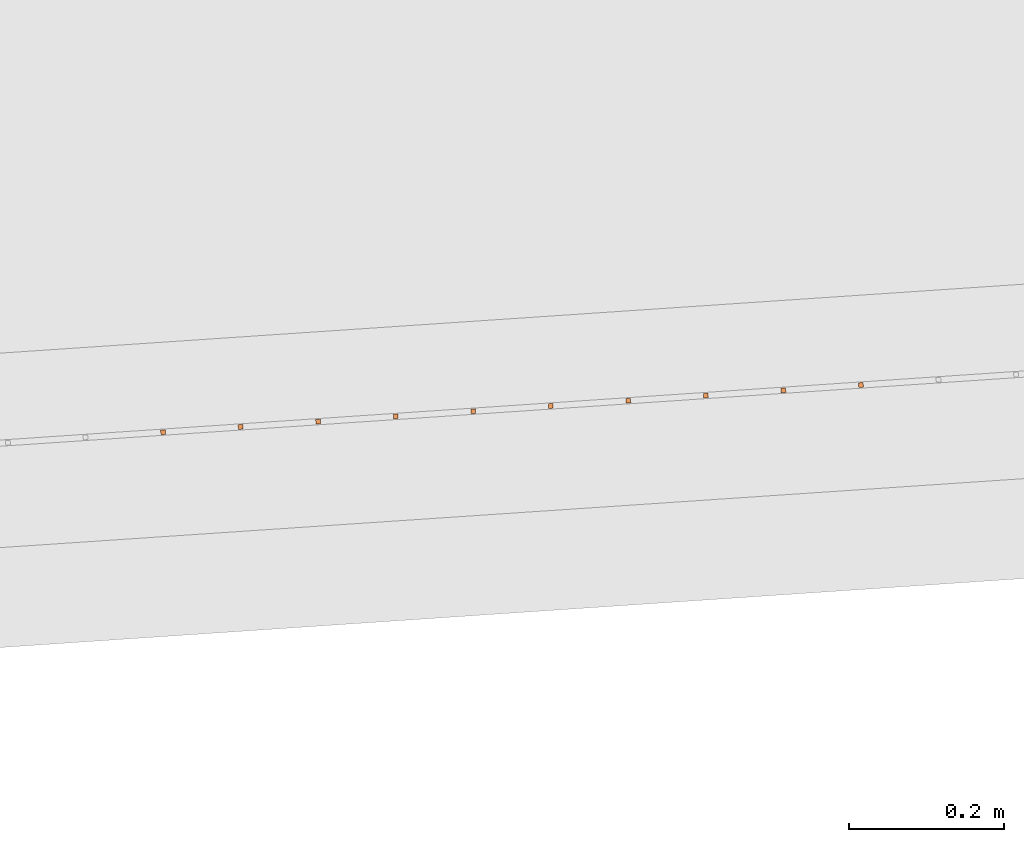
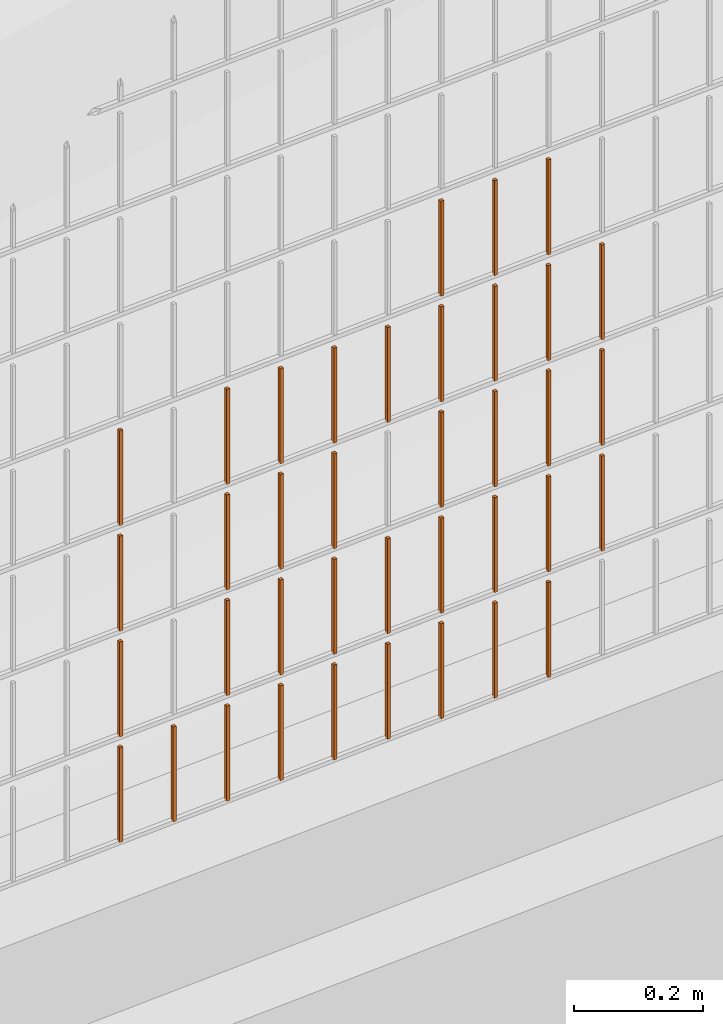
# One storey, part 100 of 1809: 38 proxies, 1 element without a shape of its own.
"""IFC2X3 building model written with IfcOpenShell, lengths in millimetres."""

import ifcopenshell
import ifcopenshell.guid

model = None  # the IFC model being written
_history = None  # IfcOwnerHistory: only IFC2X3 demands one
_inside = {}  # id of a spatial element -> (the spatial element, [elements in it])
_under = {}  # id of a project, library or spatial element -> (it, [spatial elements below it])
_declared = {}  # id of a project -> (the project, [libraries it declares])
_typed = {}  # id of a type object -> (the type object, [elements of that type])
_made_of = {}  # id of a material, layer set ... -> (it, [elements and type objects made of it])


def new_model(schema):
    """Start an empty IFC model of exactly this schema.

    Asked for "IFC4X3", IfcOpenShell would pick the latest addendum, in which some entities
    have other attributes; the version numbers below select the first issue.
    IFC2X3 requires an IfcOwnerHistory on every rooted entity: one is made here for all.
    """
    global model, _history
    if schema == "IFC4X3":
        model = ifcopenshell.file(schema_version=(4, 3, 0, 0))
    else:
        model = ifcopenshell.file(schema=schema)
    _inside.clear()
    _under.clear()
    _declared.clear()
    _typed.clear()
    _made_of.clear()
    _history = None
    if model.schema == "IFC2X3":
        org = make("IfcOrganization", Name="unknown")
        user = make(
            "IfcPersonAndOrganization",
            ThePerson=make("IfcPerson", FamilyName="unknown"),
            TheOrganization=org,
        )
        app = make(
            "IfcApplication",
            ApplicationDeveloper=org,
            Version="unknown",
            ApplicationFullName="unknown",
            ApplicationIdentifier="unknown",
        )
        _history = make(
            "IfcOwnerHistory",
            OwningUser=user,
            OwningApplication=app,
            ChangeAction="ADDED",
            CreationDate=0,
        )
    return model


def make(cls, **values):
    """One entity of the class cls with the attributes given. An attribute that is None is left unset."""
    return model.create_entity(
        cls, **{name: value for name, value in values.items() if value is not None}
    )


def entity(cls, *values):
    """Any entity or typed value of the class cls, its attributes in the order of the schema. None: left unset."""
    e = model.create_entity(cls)
    for i, value in enumerate(values):
        if value is not None:
            e[i] = value
    return e


def rooted(cls, **values):
    """An entity with a GlobalId (a new one), such as an element, a storey or a relation."""
    return make(cls, GlobalId=ifcopenshell.guid.new(), OwnerHistory=_history, **values)


def si_unit(unit_type, name, prefix=None):
    """IfcSIUnit, for example si_unit("LENGTHUNIT", "METRE", prefix="MILLI")."""
    return make("IfcSIUnit", UnitType=unit_type, Prefix=prefix, Name=name)


def converted_unit(unit_type, name, factor, base, dimensions=None, offset=None):
    """IfcConversionBasedUnit, such as the inch: factor (a typed value) times the base unit."""
    return make(
        "IfcConversionBasedUnit"
        if offset is None
        else "IfcConversionBasedUnitWithOffset",
        ConversionOffset=offset,
        Dimensions=None
        if dimensions is None
        else entity("IfcDimensionalExponents", *dimensions),
        UnitType=unit_type,
        Name=name,
        ConversionFactor=make(
            "IfcMeasureWithUnit", ValueComponent=factor, UnitComponent=base
        ),
    )


def derived_unit(unit_type, elements):
    """IfcDerivedUnit: a product of units, each with its exponent."""
    return make(
        "IfcDerivedUnit",
        Elements=[
            make("IfcDerivedUnitElement", Unit=unit, Exponent=power)
            for unit, power in elements
        ],
        UnitType=unit_type,
    )


def money_unit(currency):
    """IfcMonetaryUnit."""
    return make("IfcMonetaryUnit", Currency=currency)


def assignment(units):
    """IfcUnitAssignment: the units of a project."""
    return None if units is None else make("IfcUnitAssignment", Units=units)


def point(xyz):
    """IfcCartesianPoint."""
    return None if xyz is None else make("IfcCartesianPoint", Coordinates=xyz)


def direction(xyz):
    """IfcDirection."""
    return None if xyz is None else make("IfcDirection", DirectionRatios=xyz)


def frame(location, z_axis=None, x_axis=None):
    """IfcAxis2Placement3D, a coordinate frame: its origin and axes. An axis left out is left unset."""
    return make(
        "IfcAxis2Placement3D",
        Location=point(location),
        Axis=direction(z_axis),
        RefDirection=direction(x_axis),
    )


def origin_with_axes():
    """The frame at (0, 0, 0) with the z axis (0, 0, 1) and the x axis (1, 0, 0) written out."""
    return frame((0.0, 0.0, 0.0), z_axis=(0.0, 0.0, 1.0), x_axis=(1.0, 0.0, 0.0))


def place(relative_to, where):
    """IfcLocalPlacement: puts the frame where relative to a parent placement (None: the world)."""
    return make(
        "IfcLocalPlacement", PlacementRelTo=relative_to, RelativePlacement=where
    )


def context(
    kind, dimensions, precision=None, world=None, true_north=None, identifier=None
):
    """IfcGeometricRepresentationContext, for example the 3D "Model" context."""
    return make(
        "IfcGeometricRepresentationContext",
        ContextIdentifier=identifier,
        ContextType=kind,
        CoordinateSpaceDimension=dimensions,
        Precision=precision,
        WorldCoordinateSystem=world,
        TrueNorth=true_north,
    )


def subcontext(parent, identifier, kind, view, scale=None):
    """IfcGeometricRepresentationSubContext, for example "Body" below "Model"."""
    return make(
        "IfcGeometricRepresentationSubContext",
        ContextIdentifier=identifier,
        ContextType=kind,
        ParentContext=parent,
        TargetScale=scale,
        TargetView=view,
    )


def project(units=None, contexts=None):
    """IfcProject with its units and contexts."""
    return rooted(
        "IfcProject",
        Name="project",
        RepresentationContexts=contexts,
        UnitsInContext=assignment(units),
    )


def spatial(cls, under=None, at=None, **own):
    """A site, building, storey or space (cls), placed at a placement, below another one or the project."""
    s = rooted(cls, ObjectPlacement=at, **own)
    if under is not None:
        _under.setdefault(under.id(), (under, []))[1].append(s)
    return s


def faces_of(points, faces, orient=None, outer=None):
    """IfcFace entities. A face is a list of loops; a loop is a list of indices into points, from 0.

    orient and outer hold one flag for each loop. By default every Orientation is true, the
    first loop of a face is its IfcFaceOuterBound and the others are IfcFaceBound.
    """
    made = []
    for i, loops in enumerate(faces):
        bounds = []
        for j, loop in enumerate(loops):
            is_outer = j == 0 if outer is None else outer[i][j]
            bounds.append(
                make(
                    "IfcFaceOuterBound" if is_outer else "IfcFaceBound",
                    Bound=make("IfcPolyLoop", Polygon=[points[k] for k in loop]),
                    Orientation=True if orient is None else orient[i][j],
                )
            )
        made.append(make("IfcFace", Bounds=bounds))
    return made


def faceted_brep(points, faces, orient=None, outer=None, voids=None):
    """IfcFacetedBrep: a solid bounded by flat faces; with voids (closed shells), ...WithVoids."""
    shared = [point(p) for p in points]
    hull = make("IfcClosedShell", CfsFaces=faces_of(shared, faces, orient, outer))
    if voids is None:
        return make("IfcFacetedBrep", Outer=hull)
    return make(
        "IfcFacetedBrepWithVoids",
        Outer=hull,
        Voids=[
            make(cls, CfsFaces=faces_of(shared, fs, o, b)) for cls, fs, o, b in voids
        ],
    )


def shape(context_of_items, identifier, shape_type, items):
    """IfcShapeRepresentation: the items that make up one representation, for example the "Body"."""
    return make(
        "IfcShapeRepresentation",
        ContextOfItems=context_of_items,
        RepresentationIdentifier=identifier,
        RepresentationType=shape_type,
        Items=items,
    )


def source(mapping_origin, context_of_items, identifier, shape_type, items):
    """IfcRepresentationMap: a shape defined once, which mapped items show again and again."""
    return make(
        "IfcRepresentationMap",
        MappingOrigin=mapping_origin,
        MappedRepresentation=shape(context_of_items, identifier, shape_type, items),
    )


def transform(
    local_origin,
    x_axis=None,
    y_axis=None,
    z_axis=None,
    scale=None,
    scale2=None,
    scale3=None,
    uniform=True,
):
    """IfcCartesianTransformationOperator3D, or its non-uniform kind. x_axis, y_axis, z_axis: its Axis1, 2, 3."""
    if uniform:
        return make(
            "IfcCartesianTransformationOperator3D",
            Axis1=direction(x_axis),
            Axis2=direction(y_axis),
            LocalOrigin=point(local_origin),
            Scale=scale,
            Axis3=direction(z_axis),
        )
    return make(
        "IfcCartesianTransformationOperator3DnonUniform",
        Axis1=direction(x_axis),
        Axis2=direction(y_axis),
        LocalOrigin=point(local_origin),
        Scale=scale,
        Axis3=direction(z_axis),
        Scale2=scale2,
        Scale3=scale3,
    )


def mapped(mapping_source, mapping_target):
    """IfcMappedItem: shows the shape of a source again, moved by a transform."""
    return make(
        "IfcMappedItem", MappingSource=mapping_source, MappingTarget=mapping_target
    )


def material(Name=None, Category=None):
    """IfcMaterial."""
    return make("IfcMaterial", Name=Name, Category=Category)


def made_of(thing, what):
    """Note that an element or type object is made of a material, layer set ...; save() writes the relation."""
    if what is not None:
        _made_of.setdefault(what.id(), (what, []))[1].append(thing)
    return thing


def type_object(cls, material=None, **own):
    """A type object (cls), such as IfcWallType, which elements share."""
    return made_of(rooted(cls, **own), material)


def element(
    cls,
    number,
    at=None,
    inside=None,
    cuts=None,
    type_object=None,
    material=None,
    context=None,
    identifier="Body",
    shape_type=None,
    held_by="IfcProductDefinitionShape",
    body=None,
    shapes=None,
    **own,
):
    """One element of the class cls, such as IfcWall. Its Tag is "e" and its number.

    at: its placement. inside: the storey or other place that contains it. cuts: it is an
    opening in that element (IfcRelVoidsElement). A single representation is given by context,
    identifier, shape_type and body (its items); several are given by shapes. held_by: the class
    of the entity that holds the representations. save() writes the other relations.
    """
    e = rooted(cls, Tag="e%d" % number, ObjectPlacement=at, **own)
    if body is not None:
        shapes = [shape(context, identifier, shape_type, body)]
    if shapes is not None:
        e.Representation = make(held_by, Representations=shapes)
    if inside is not None:
        _inside.setdefault(inside.id(), (inside, []))[1].append(e)
    if cuts is not None:
        rooted(
            "IfcRelVoidsElement", RelatingBuildingElement=cuts, RelatedOpeningElement=e
        )
    if type_object is not None:
        _typed.setdefault(type_object.id(), (type_object, []))[1].append(e)
    return made_of(e, material)


def aggregate(whole, parts):
    """IfcRelAggregates: a whole, such as a stair, and the parts it consists of."""
    return rooted("IfcRelAggregates", RelatingObject=whole, RelatedObjects=parts)


def save(model, path):
    """Write the relations noted so far, then the file.

    IfcRelAggregates (storeys below a building ...), IfcRelContainedInSpatialStructure (elements
    in a storey), IfcRelDefinesByType, IfcRelAssociatesMaterial and IfcRelDeclares: one each for
    every whole, place, type object, material and project.
    """
    for whole, parts in _under.values():
        aggregate(whole, parts)
    for where, things in _inside.values():
        rooted(
            "IfcRelContainedInSpatialStructure",
            RelatedElements=things,
            RelatingStructure=where,
        )
    for kind, things in _typed.values():
        rooted("IfcRelDefinesByType", RelatedObjects=things, RelatingType=kind)
    for what, things in _made_of.values():
        rooted("IfcRelAssociatesMaterial", RelatedObjects=things, RelatingMaterial=what)
    for by, libraries in _declared.values():
        rooted("IfcRelDeclares", RelatingContext=by, RelatedDefinitions=libraries)
    model.write(path)


model = new_model("IFC2X3")

# Units and contexts
model_context = context("Model", 3, precision=0.01, world=origin_with_axes(), true_north=direction((0.0, 1.0)))
body_context = subcontext(model_context, "Body", "Model", "MODEL_VIEW")
ifc_project = project(units=[si_unit("LENGTHUNIT", "METRE", prefix="MILLI"), si_unit("AREAUNIT", "SQUARE_METRE"), si_unit("VOLUMEUNIT", "CUBIC_METRE"), converted_unit("PLANEANGLEUNIT", "DEGREE", entity("IfcPlaneAngleMeasure", 0.0174532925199), si_unit("PLANEANGLEUNIT", "RADIAN"), dimensions=[0, 0, 0, 0, 0, 0, 0]), si_unit("SOLIDANGLEUNIT", "STERADIAN"), money_unit("EUR"), converted_unit("TIMEUNIT", "Year", entity("IfcTimeMeasure", 31556926.0), si_unit("TIMEUNIT", "SECOND"), dimensions=[0, 0, 1, 0, 0, 0, 0]), si_unit("MASSUNIT", "GRAM", prefix="KILO"), si_unit("THERMODYNAMICTEMPERATUREUNIT", "DEGREE_CELSIUS"), si_unit("LUMINOUSINTENSITYUNIT", "LUMEN"), si_unit("ENERGYUNIT", "JOULE", prefix="MEGA"), derived_unit("THERMALCONDUCTANCEUNIT", [(si_unit("POWERUNIT", "WATT"), 1), (si_unit("LENGTHUNIT", "METRE"), -1), (si_unit("THERMODYNAMICTEMPERATUREUNIT", "KELVIN"), -1)]), derived_unit("SPECIFICHEATCAPACITYUNIT", [(si_unit("ENERGYUNIT", "JOULE"), 1), (si_unit("MASSUNIT", "GRAM", prefix="KILO"), -1), (si_unit("THERMODYNAMICTEMPERATUREUNIT", "KELVIN"), -1)]), derived_unit("MASSDENSITYUNIT", [(si_unit("MASSUNIT", "GRAM", prefix="KILO"), 1), (si_unit("VOLUMEUNIT", "CUBIC_METRE"), -1)])], contexts=[model_context])

# Site, building, storey
site_placement = place(None, origin_with_axes())
site = spatial("IfcSite", under=ifc_project, at=site_placement, Name="Politse- ja Piirivalveameti ning Päästeameti ühishoone", CompositionType="ELEMENT")
building_placement = place(site_placement, origin_with_axes())
building = spatial("IfcBuilding", under=site, at=building_placement, Name="Politse- ja Piirivalveameti ning Päästeameti ühishoone", CompositionType="ELEMENT")
storey_placement = place(building_placement, origin_with_axes())
storey = spatial("IfcBuildingStorey", under=building, at=storey_placement, Name="Esimene korrus", CompositionType="ELEMENT", Elevation=0.0)

# Proxies
building_element_proxy_type_1 = type_object("IfcBuildingElementProxyType", Name="Railing Type", PredefinedType="NOTDEFINED")
proxy_1_placement = place(storey_placement, frame((89252.001212, -29183.4766571, 203.661247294), z_axis=(0.0, 0.0, 1.0), x_axis=(1.0, 0.0, 0.0)))
proxy_1 = element("IfcBuildingElementProxy", 1, at=proxy_1_placement, inside=storey, type_object=building_element_proxy_type_1, Name="PIIRDEAED")
ifc_material = material(Name="ET-03_Raud")
building_element_proxy_type_2 = type_object("IfcBuildingElementProxyType", Name="IfcBuildingElementProxy", PredefinedType="NOTDEFINED")
shared_shape_1 = source(origin_with_axes(), body_context, "Body", "Brep", [
    faceted_brep([(3.0, 3.0, -0.000752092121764), (-3.0, 3.0, -0.000752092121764), (-3.0, 3.0, 179.99926046), (3.0, 3.0, 179.99926046), (3.0, -3.0, 0.000752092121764), (-3.0, -3.0, 0.000752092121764), (-3.0, -3.0, 180.000764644), (3.0, -3.0, 180.000764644)], [[[0, 1, 2, 3]], [[0, 4, 5, 1]], [[1, 5, 6, 2]], [[3, 2, 6, 7]], [[4, 0, 3, 7]], [[5, 4, 7, 6]]]),
])
proxy_2_placement = place(proxy_1_placement, frame((-95209.7382794, -23728.8332738, 603.311165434), z_axis=(0.0, 0.0, 1.0), x_axis=(1.0, 0.0, 0.0)))
proxy_2 = element("IfcBuildingElementProxy", 2, at=proxy_2_placement, type_object=building_element_proxy_type_2, material=ifc_material, Name="BALUSTER - 001", context=body_context, shape_type="MappedRepresentation", body=[
    mapped(shared_shape_1, transform((0.0, 0.0, 0.0), x_axis=(-0.0673926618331, 0.997726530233, 0.0), y_axis=(-0.997726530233, -0.0673926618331, 0.0), z_axis=(0.0, 0.0, 1.0))),
])
shared_shape_2 = source(origin_with_axes(), body_context, "Body", "Brep", [
    faceted_brep([(3.0, 3.0, -0.000752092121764), (-3.0, 3.0, -0.000752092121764), (-3.0, 3.0, 179.99926046), (3.0, 3.0, 179.99926046), (3.0, -3.0, 0.000752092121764), (-3.0, -3.0, 0.000752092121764), (-3.0, -3.0, 180.000764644), (3.0, -3.0, 180.000764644)], [[[0, 1, 2, 3]], [[0, 4, 5, 1]], [[1, 5, 6, 2]], [[3, 2, 6, 7]], [[4, 0, 3, 7]], [[5, 4, 7, 6]]]),
])
proxy_3_placement = place(proxy_1_placement, frame((-95608.8288915, -23755.7903385, 3.21088648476), z_axis=(0.0, 0.0, 1.0), x_axis=(1.0, 0.0, 0.0)))
proxy_3 = element("IfcBuildingElementProxy", 3, at=proxy_3_placement, type_object=building_element_proxy_type_2, material=ifc_material, Name="BALUSTER - 001", context=body_context, shape_type="MappedRepresentation", body=[
    mapped(shared_shape_2, transform((0.0, 0.0, 0.0), x_axis=(-0.0673926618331, 0.997726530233, 0.0), y_axis=(-0.997726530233, -0.0673926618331, 0.0), z_axis=(0.0, 0.0, 1.0))),
])
shared_shape_3 = source(origin_with_axes(), body_context, "Body", "Brep", [
    faceted_brep([(3.0, 3.0, -0.000752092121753), (-3.0, 3.0, -0.000752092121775), (-3.0, 3.0, 179.99926046), (3.0, 3.0, 179.99926046), (3.0, -3.0, 0.000752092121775), (-3.0, -3.0, 0.000752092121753), (-3.0, -3.0, 180.000764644), (3.0, -3.0, 180.000764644)], [[[0, 1, 2, 3]], [[0, 4, 5, 1]], [[1, 5, 6, 2]], [[3, 2, 6, 7]], [[4, 0, 3, 7]], [[5, 4, 7, 6]]]),
])
proxy_4_placement = place(proxy_1_placement, frame((-96007.9195036, -23782.7474033, 3.11060753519), z_axis=(0.0, 0.0, 1.0), x_axis=(1.0, 0.0, 0.0)))
proxy_4 = element("IfcBuildingElementProxy", 4, at=proxy_4_placement, type_object=building_element_proxy_type_2, material=ifc_material, Name="BALUSTER - 001", context=body_context, shape_type="MappedRepresentation", body=[
    mapped(shared_shape_3, transform((0.0, 0.0, 0.0), x_axis=(-0.0673926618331, 0.997726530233, 0.0), y_axis=(-0.997726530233, -0.0673926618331, 0.0), z_axis=(0.0, 0.0, 1.0))),
])
shared_shape_4 = source(origin_with_axes(), body_context, "Body", "Brep", [
    faceted_brep([(3.0, 3.0, -0.000752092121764), (-3.0, 3.0, -0.000752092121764), (-3.0, 3.0, 179.99926046), (3.0, 3.0, 179.99926046), (3.0, -3.0, 0.000752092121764), (-3.0, -3.0, 0.000752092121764), (-3.0, -3.0, 180.000764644), (3.0, -3.0, 180.000764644)], [[[0, 1, 2, 3]], [[0, 4, 5, 1]], [[1, 5, 6, 2]], [[3, 2, 6, 7]], [[4, 0, 3, 7]], [[5, 4, 7, 6]]]),
])
proxy_5_placement = place(proxy_1_placement, frame((-95409.2835855, -23742.3118062, 3.26102595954), z_axis=(0.0, 0.0, 1.0), x_axis=(1.0, 0.0, 0.0)))
proxy_5 = element("IfcBuildingElementProxy", 5, at=proxy_5_placement, type_object=building_element_proxy_type_2, material=ifc_material, Name="BALUSTER - 001", context=body_context, shape_type="MappedRepresentation", body=[
    mapped(shared_shape_4, transform((0.0, 0.0, 0.0), x_axis=(-0.0673926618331, 0.997726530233, 0.0), y_axis=(-0.997726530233, -0.0673926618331, 0.0), z_axis=(0.0, 0.0, 1.0))),
])
proxy_6_placement = place(proxy_1_placement, frame((-95509.0562385, -23749.0510723, 3.23595622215), z_axis=(0.0, 0.0, 1.0), x_axis=(1.0, 0.0, 0.0)))
proxy_6 = element("IfcBuildingElementProxy", 6, at=proxy_6_placement, type_object=building_element_proxy_type_2, material=ifc_material, Name="BALUSTER - 001", context=body_context, shape_type="MappedRepresentation", body=[
    mapped(shared_shape_4, transform((0.0, 0.0, 0.0), x_axis=(-0.0673926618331, 0.997726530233, 0.0), y_axis=(-0.997726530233, -0.0673926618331, 0.0), z_axis=(0.0, 0.0, 1.0))),
])
proxy_7_placement = place(proxy_1_placement, frame((-95708.6015445, -23762.5296047, 3.18581674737), z_axis=(0.0, 0.0, 1.0), x_axis=(1.0, 0.0, 0.0)))
proxy_7 = element("IfcBuildingElementProxy", 7, at=proxy_7_placement, type_object=building_element_proxy_type_2, material=ifc_material, Name="BALUSTER - 001", context=body_context, shape_type="MappedRepresentation", body=[
    mapped(shared_shape_4, transform((0.0, 0.0, 0.0), x_axis=(-0.0673926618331, 0.997726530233, 0.0), y_axis=(-0.997726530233, -0.0673926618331, 0.0), z_axis=(0.0, 0.0, 1.0))),
])
proxy_8_placement = place(proxy_1_placement, frame((-96107.6921566, -23789.4866694, 3.0855377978), z_axis=(0.0, 0.0, 1.0), x_axis=(1.0, 0.0, 0.0)))
proxy_8 = element("IfcBuildingElementProxy", 8, at=proxy_8_placement, type_object=building_element_proxy_type_2, material=ifc_material, Name="BALUSTER - 001", context=body_context, shape_type="MappedRepresentation", body=[
    mapped(shared_shape_4, transform((0.0, 0.0, 0.0), x_axis=(-0.0673926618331, 0.997726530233, 0.0), y_axis=(-0.997726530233, -0.0673926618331, 0.0), z_axis=(0.0, 0.0, 1.0))),
])
shared_shape_5 = source(origin_with_axes(), body_context, "Body", "Brep", [
    faceted_brep([(3.0, 3.0, -0.000752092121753), (-3.0, 3.0, -0.000752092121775), (-3.0, 3.0, 179.99926046), (3.0, 3.0, 179.99926046), (3.0, -3.0, 0.000752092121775), (-3.0, -3.0, 0.000752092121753), (-3.0, -3.0, 180.000764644), (3.0, -3.0, 180.000764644)], [[[0, 1, 2, 3]], [[0, 4, 5, 1]], [[1, 5, 6, 2]], [[3, 2, 6, 7]], [[4, 0, 3, 7]], [[5, 4, 7, 6]]]),
])
proxy_9_placement = place(proxy_1_placement, frame((-95808.3741976, -23769.2688709, 3.16074700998), z_axis=(0.0, 0.0, 1.0), x_axis=(1.0, 0.0, 0.0)))
proxy_9 = element("IfcBuildingElementProxy", 9, at=proxy_9_placement, type_object=building_element_proxy_type_2, material=ifc_material, Name="BALUSTER - 001", context=body_context, shape_type="MappedRepresentation", body=[
    mapped(shared_shape_5, transform((0.0, 0.0, 0.0), x_axis=(-0.0673926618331, 0.997726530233, 0.0), y_axis=(-0.997726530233, -0.0673926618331, 0.0), z_axis=(0.0, 0.0, 1.0))),
])
proxy_10_placement = place(proxy_1_placement, frame((-95808.3741976, -23769.2688709, 203.16074701), z_axis=(0.0, 0.0, 1.0), x_axis=(1.0, 0.0, 0.0)))
proxy_10 = element("IfcBuildingElementProxy", 10, at=proxy_10_placement, type_object=building_element_proxy_type_2, material=ifc_material, Name="BALUSTER - 001", context=body_context, shape_type="MappedRepresentation", body=[
    mapped(shared_shape_5, transform((0.0, 0.0, 0.0), x_axis=(-0.0673926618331, 0.997726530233, 0.0), y_axis=(-0.997726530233, -0.0673926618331, 0.0), z_axis=(0.0, 0.0, 1.0))),
])
shared_shape_6 = source(origin_with_axes(), body_context, "Body", "Brep", [
    faceted_brep([(3.0, 3.0, -0.000752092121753), (-3.0, 3.0, -0.000752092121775), (-3.0, 3.0, 179.99926046), (3.0, 3.0, 179.99926046), (3.0, -3.0, 0.000752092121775), (-3.0, -3.0, 0.000752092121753), (-3.0, -3.0, 180.000764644), (3.0, -3.0, 180.000764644)], [[[0, 1, 2, 3]], [[0, 4, 5, 1]], [[1, 5, 6, 2]], [[3, 2, 6, 7]], [[4, 0, 3, 7]], [[5, 4, 7, 6]]]),
])
proxy_11_placement = place(proxy_1_placement, frame((-95908.1468506, -23776.0081371, 403.135677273), z_axis=(0.0, 0.0, 1.0), x_axis=(1.0, 0.0, 0.0)))
proxy_11 = element("IfcBuildingElementProxy", 11, at=proxy_11_placement, type_object=building_element_proxy_type_2, material=ifc_material, Name="BALUSTER - 001", context=body_context, shape_type="MappedRepresentation", body=[
    mapped(shared_shape_6, transform((0.0, 0.0, 0.0), x_axis=(-0.0673926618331, 0.997726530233, 0.0), y_axis=(-0.997726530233, -0.0673926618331, 0.0), z_axis=(0.0, 0.0, 1.0))),
])
proxy_12_placement = place(proxy_1_placement, frame((-95309.5109324, -23735.57254, 603.286095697), z_axis=(0.0, 0.0, 1.0), x_axis=(1.0, 0.0, 0.0)))
proxy_12 = element("IfcBuildingElementProxy", 12, at=proxy_12_placement, type_object=building_element_proxy_type_2, material=ifc_material, Name="BALUSTER - 001", context=body_context, shape_type="MappedRepresentation", body=[
    mapped(shared_shape_6, transform((0.0, 0.0, 0.0), x_axis=(-0.0673926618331, 0.997726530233, 0.0), y_axis=(-0.997726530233, -0.0673926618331, 0.0), z_axis=(0.0, 0.0, 1.0))),
])
shared_shape_7 = source(origin_with_axes(), body_context, "Body", "Brep", [
    faceted_brep([(3.0, 3.0, -0.000752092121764), (-3.0, 3.0, -0.000752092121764), (-3.0, 3.0, 179.99926046), (3.0, 3.0, 179.99926046), (3.0, -3.0, 0.000752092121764), (-3.0, -3.0, 0.000752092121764), (-3.0, -3.0, 180.000764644), (3.0, -3.0, 180.000764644)], [[[0, 1, 2, 3]], [[0, 4, 5, 1]], [[1, 5, 6, 2]], [[3, 2, 6, 7]], [[4, 0, 3, 7]], [[5, 4, 7, 6]]]),
])
proxy_13_placement = place(proxy_1_placement, frame((-95409.2835855, -23742.3118062, 203.26102596), z_axis=(0.0, 0.0, 1.0), x_axis=(1.0, 0.0, 0.0)))
proxy_13 = element("IfcBuildingElementProxy", 13, at=proxy_13_placement, type_object=building_element_proxy_type_2, material=ifc_material, Name="BALUSTER - 001", context=body_context, shape_type="MappedRepresentation", body=[
    mapped(shared_shape_7, transform((0.0, 0.0, 0.0), x_axis=(-0.0673926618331, 0.997726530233, 0.0), y_axis=(-0.997726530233, -0.0673926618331, 0.0), z_axis=(0.0, 0.0, 1.0))),
])
shared_shape_8 = source(origin_with_axes(), body_context, "Body", "Brep", [
    faceted_brep([(3.0, 3.0, -0.000752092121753), (-3.0, 3.0, -0.000752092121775), (-3.0, 3.0, 179.99926046), (3.0, 3.0, 179.99926046), (3.0, -3.0, 0.000752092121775), (-3.0, -3.0, 0.000752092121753), (-3.0, -3.0, 180.000764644), (3.0, -3.0, 180.000764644)], [[[0, 1, 2, 3]], [[0, 4, 5, 1]], [[1, 5, 6, 2]], [[3, 2, 6, 7]], [[4, 0, 3, 7]], [[5, 4, 7, 6]]]),
])
proxy_14_placement = place(proxy_1_placement, frame((-95808.3741976, -23769.2688709, 403.16074701), z_axis=(0.0, 0.0, 1.0), x_axis=(1.0, 0.0, 0.0)))
proxy_14 = element("IfcBuildingElementProxy", 14, at=proxy_14_placement, type_object=building_element_proxy_type_2, material=ifc_material, Name="BALUSTER - 001", context=body_context, shape_type="MappedRepresentation", body=[
    mapped(shared_shape_8, transform((0.0, 0.0, 0.0), x_axis=(-0.0673926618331, 0.997726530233, 0.0), y_axis=(-0.997726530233, -0.0673926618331, 0.0), z_axis=(0.0, 0.0, 1.0))),
])
shared_shape_9 = source(origin_with_axes(), body_context, "Body", "Brep", [
    faceted_brep([(3.0, 3.0, -0.000752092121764), (-3.0, 3.0, -0.000752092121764), (-3.0, 3.0, 179.99926046), (3.0, 3.0, 179.99926046), (3.0, -3.0, 0.000752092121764), (-3.0, -3.0, 0.000752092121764), (-3.0, -3.0, 180.000764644), (3.0, -3.0, 180.000764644)], [[[0, 1, 2, 3]], [[0, 4, 5, 1]], [[1, 5, 6, 2]], [[3, 2, 6, 7]], [[4, 0, 3, 7]], [[5, 4, 7, 6]]]),
])
proxy_15_placement = place(proxy_1_placement, frame((-95509.0562385, -23749.0510723, 803.235956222), z_axis=(0.0, 0.0, 1.0), x_axis=(1.0, 0.0, 0.0)))
proxy_15 = element("IfcBuildingElementProxy", 15, at=proxy_15_placement, type_object=building_element_proxy_type_2, material=ifc_material, Name="BALUSTER - 001", context=body_context, shape_type="MappedRepresentation", body=[
    mapped(shared_shape_9, transform((0.0, 0.0, 0.0), x_axis=(-0.0673926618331, 0.997726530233, 0.0), y_axis=(-0.997726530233, -0.0673926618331, 0.0), z_axis=(0.0, 0.0, 1.0))),
])
shared_shape_10 = source(origin_with_axes(), body_context, "Body", "Brep", [
    faceted_brep([(3.0, 3.0, -0.000752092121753), (-3.0, 3.0, -0.000752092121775), (-3.0, 3.0, 179.99926046), (3.0, 3.0, 179.99926046), (3.0, -3.0, 0.000752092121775), (-3.0, -3.0, 0.000752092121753), (-3.0, -3.0, 180.000764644), (3.0, -3.0, 180.000764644)], [[[0, 1, 2, 3]], [[0, 4, 5, 1]], [[1, 5, 6, 2]], [[3, 2, 6, 7]], [[4, 0, 3, 7]], [[5, 4, 7, 6]]]),
])
proxy_16_placement = place(proxy_1_placement, frame((-95309.5109324, -23735.57254, 3.28609569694), z_axis=(0.0, 0.0, 1.0), x_axis=(1.0, 0.0, 0.0)))
proxy_16 = element("IfcBuildingElementProxy", 16, at=proxy_16_placement, type_object=building_element_proxy_type_2, material=ifc_material, Name="BALUSTER - 001", context=body_context, shape_type="MappedRepresentation", body=[
    mapped(shared_shape_10, transform((0.0, 0.0, 0.0), x_axis=(-0.0673926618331, 0.997726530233, 0.0), y_axis=(-0.997726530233, -0.0673926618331, 0.0), z_axis=(0.0, 0.0, 1.0))),
])
shared_shape_11 = source(origin_with_axes(), body_context, "Body", "Brep", [
    faceted_brep([(3.0, 3.0, -0.000752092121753), (-3.0, 3.0, -0.000752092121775), (-3.0, 3.0, 179.99926046), (3.0, 3.0, 179.99926046), (3.0, -3.0, 0.000752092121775), (-3.0, -3.0, 0.000752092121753), (-3.0, -3.0, 180.000764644), (3.0, -3.0, 180.000764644)], [[[0, 1, 2, 3]], [[0, 4, 5, 1]], [[1, 5, 6, 2]], [[3, 2, 6, 7]], [[4, 0, 3, 7]], [[5, 4, 7, 6]]]),
])
proxy_17_placement = place(proxy_1_placement, frame((-95309.5109324, -23735.57254, 203.286095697), z_axis=(0.0, 0.0, 1.0), x_axis=(1.0, 0.0, 0.0)))
proxy_17 = element("IfcBuildingElementProxy", 17, at=proxy_17_placement, type_object=building_element_proxy_type_2, material=ifc_material, Name="BALUSTER - 001", context=body_context, shape_type="MappedRepresentation", body=[
    mapped(shared_shape_11, transform((0.0, 0.0, 0.0), x_axis=(-0.0673926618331, 0.997726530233, 0.0), y_axis=(-0.997726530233, -0.0673926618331, 0.0), z_axis=(0.0, 0.0, 1.0))),
])
proxy_18_placement = place(proxy_1_placement, frame((-95908.1468506, -23776.0081371, 203.135677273), z_axis=(0.0, 0.0, 1.0), x_axis=(1.0, 0.0, 0.0)))
proxy_18 = element("IfcBuildingElementProxy", 18, at=proxy_18_placement, type_object=building_element_proxy_type_2, material=ifc_material, Name="BALUSTER - 001", context=body_context, shape_type="MappedRepresentation", body=[
    mapped(shared_shape_11, transform((0.0, 0.0, 0.0), x_axis=(-0.0673926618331, 0.997726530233, 0.0), y_axis=(-0.997726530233, -0.0673926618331, 0.0), z_axis=(0.0, 0.0, 1.0))),
])
proxy_19_placement = place(proxy_1_placement, frame((-95309.5109324, -23735.57254, 403.286095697), z_axis=(0.0, 0.0, 1.0), x_axis=(1.0, 0.0, 0.0)))
proxy_19 = element("IfcBuildingElementProxy", 19, at=proxy_19_placement, type_object=building_element_proxy_type_2, material=ifc_material, Name="BALUSTER - 001", context=body_context, shape_type="MappedRepresentation", body=[
    mapped(shared_shape_11, transform((0.0, 0.0, 0.0), x_axis=(-0.0673926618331, 0.997726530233, 0.0), y_axis=(-0.997726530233, -0.0673926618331, 0.0), z_axis=(0.0, 0.0, 1.0))),
])
proxy_20_placement = place(proxy_1_placement, frame((-95908.1468506, -23776.0081371, 603.135677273), z_axis=(0.0, 0.0, 1.0), x_axis=(1.0, 0.0, 0.0)))
proxy_20 = element("IfcBuildingElementProxy", 20, at=proxy_20_placement, type_object=building_element_proxy_type_2, material=ifc_material, Name="BALUSTER - 001", context=body_context, shape_type="MappedRepresentation", body=[
    mapped(shared_shape_11, transform((0.0, 0.0, 0.0), x_axis=(-0.0673926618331, 0.997726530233, 0.0), y_axis=(-0.997726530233, -0.0673926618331, 0.0), z_axis=(0.0, 0.0, 1.0))),
])
shared_shape_12 = source(origin_with_axes(), body_context, "Body", "Brep", [
    faceted_brep([(3.0, 3.0, -0.000752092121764), (-3.0, 3.0, -0.000752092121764), (-3.0, 3.0, 179.99926046), (3.0, 3.0, 179.99926046), (3.0, -3.0, 0.000752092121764), (-3.0, -3.0, 0.000752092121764), (-3.0, -3.0, 180.000764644), (3.0, -3.0, 180.000764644)], [[[0, 1, 2, 3]], [[0, 4, 5, 1]], [[1, 5, 6, 2]], [[3, 2, 6, 7]], [[4, 0, 3, 7]], [[5, 4, 7, 6]]]),
])
proxy_21_placement = place(proxy_1_placement, frame((-95708.6015445, -23762.5296047, 203.185816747), z_axis=(0.0, 0.0, 1.0), x_axis=(1.0, 0.0, 0.0)))
proxy_21 = element("IfcBuildingElementProxy", 21, at=proxy_21_placement, type_object=building_element_proxy_type_2, material=ifc_material, Name="BALUSTER - 001", context=body_context, shape_type="MappedRepresentation", body=[
    mapped(shared_shape_12, transform((0.0, 0.0, 0.0), x_axis=(-0.0673926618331, 0.997726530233, 0.0), y_axis=(-0.997726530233, -0.0673926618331, 0.0), z_axis=(0.0, 0.0, 1.0))),
])
shared_shape_13 = source(origin_with_axes(), body_context, "Body", "Brep", [
    faceted_brep([(3.0, 3.0, -0.000752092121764), (-3.0, 3.0, -0.000752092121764), (-3.0, 3.0, 179.99926046), (3.0, 3.0, 179.99926046), (3.0, -3.0, 0.000752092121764), (-3.0, -3.0, 0.000752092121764), (-3.0, -3.0, 180.000764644), (3.0, -3.0, 180.000764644)], [[[0, 1, 2, 3]], [[0, 4, 5, 1]], [[1, 5, 6, 2]], [[3, 2, 6, 7]], [[4, 0, 3, 7]], [[5, 4, 7, 6]]]),
])
proxy_22_placement = place(proxy_1_placement, frame((-95209.7382794, -23728.8332738, 403.311165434), z_axis=(0.0, 0.0, 1.0), x_axis=(1.0, 0.0, 0.0)))
proxy_22 = element("IfcBuildingElementProxy", 22, at=proxy_22_placement, type_object=building_element_proxy_type_2, material=ifc_material, Name="BALUSTER - 001", context=body_context, shape_type="MappedRepresentation", body=[
    mapped(shared_shape_13, transform((0.0, 0.0, 0.0), x_axis=(-0.0673926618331, 0.997726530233, 0.0), y_axis=(-0.997726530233, -0.0673926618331, 0.0), z_axis=(0.0, 0.0, 1.0))),
])
shared_shape_14 = source(origin_with_axes(), body_context, "Body", "Brep", [
    faceted_brep([(3.0, 3.0, -0.000752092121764), (-3.0, 3.0, -0.000752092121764), (-3.0, 3.0, 179.99926046), (3.0, 3.0, 179.99926046), (3.0, -3.0, 0.000752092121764), (-3.0, -3.0, 0.000752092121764), (-3.0, -3.0, 180.000764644), (3.0, -3.0, 180.000764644)], [[[0, 1, 2, 3]], [[0, 4, 5, 1]], [[1, 5, 6, 2]], [[3, 2, 6, 7]], [[4, 0, 3, 7]], [[5, 4, 7, 6]]]),
])
proxy_23_placement = place(proxy_1_placement, frame((-95209.7382794, -23728.8332738, 203.311165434), z_axis=(0.0, 0.0, 1.0), x_axis=(1.0, 0.0, 0.0)))
proxy_23 = element("IfcBuildingElementProxy", 23, at=proxy_23_placement, type_object=building_element_proxy_type_2, material=ifc_material, Name="BALUSTER - 001", context=body_context, shape_type="MappedRepresentation", body=[
    mapped(shared_shape_14, transform((0.0, 0.0, 0.0), x_axis=(-0.0673926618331, 0.997726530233, 0.0), y_axis=(-0.997726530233, -0.0673926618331, 0.0), z_axis=(0.0, 0.0, 1.0))),
])
shared_shape_15 = source(origin_with_axes(), body_context, "Body", "Brep", [
    faceted_brep([(3.0, 3.0, -0.000752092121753), (-3.0, 3.0, -0.000752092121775), (-3.0, 3.0, 179.99926046), (3.0, 3.0, 179.99926046), (3.0, -3.0, 0.000752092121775), (-3.0, -3.0, 0.000752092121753), (-3.0, -3.0, 180.000764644), (3.0, -3.0, 180.000764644)], [[[0, 1, 2, 3]], [[0, 4, 5, 1]], [[1, 5, 6, 2]], [[3, 2, 6, 7]], [[4, 0, 3, 7]], [[5, 4, 7, 6]]]),
])
proxy_24_placement = place(proxy_1_placement, frame((-95908.1468506, -23776.0081371, 3.13567727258), z_axis=(0.0, 0.0, 1.0), x_axis=(1.0, 0.0, 0.0)))
proxy_24 = element("IfcBuildingElementProxy", 24, at=proxy_24_placement, type_object=building_element_proxy_type_2, material=ifc_material, Name="BALUSTER - 001", context=body_context, shape_type="MappedRepresentation", body=[
    mapped(shared_shape_15, transform((0.0, 0.0, 0.0), x_axis=(-0.0673926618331, 0.997726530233, 0.0), y_axis=(-0.997726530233, -0.0673926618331, 0.0), z_axis=(0.0, 0.0, 1.0))),
])
shared_shape_16 = source(origin_with_axes(), body_context, "Body", "Brep", [
    faceted_brep([(3.0, 3.0, -0.000752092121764), (-3.0, 3.0, -0.000752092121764), (-3.0, 3.0, 179.99926046), (3.0, 3.0, 179.99926046), (3.0, -3.0, 0.000752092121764), (-3.0, -3.0, 0.000752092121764), (-3.0, -3.0, 180.000764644), (3.0, -3.0, 180.000764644)], [[[0, 1, 2, 3]], [[0, 4, 5, 1]], [[1, 5, 6, 2]], [[3, 2, 6, 7]], [[4, 0, 3, 7]], [[5, 4, 7, 6]]]),
])
proxy_25_placement = place(proxy_1_placement, frame((-95608.8288915, -23755.7903385, 203.210886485), z_axis=(0.0, 0.0, 1.0), x_axis=(1.0, 0.0, 0.0)))
proxy_25 = element("IfcBuildingElementProxy", 25, at=proxy_25_placement, type_object=building_element_proxy_type_2, material=ifc_material, Name="BALUSTER - 001", context=body_context, shape_type="MappedRepresentation", body=[
    mapped(shared_shape_16, transform((0.0, 0.0, 0.0), x_axis=(-0.0673926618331, 0.997726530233, 0.0), y_axis=(-0.997726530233, -0.0673926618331, 0.0), z_axis=(0.0, 0.0, 1.0))),
])
shared_shape_17 = source(origin_with_axes(), body_context, "Body", "Brep", [
    faceted_brep([(3.0, 3.0, -0.000752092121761), (-3.0, 3.0, -0.000752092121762), (-3.0, 3.0, 179.99926046), (3.0, 3.0, 179.99926046), (3.0, -3.0, 0.000752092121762), (-3.0, -3.0, 0.000752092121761), (-3.0, -3.0, 180.000764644), (3.0, -3.0, 180.000764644)], [[[0, 1, 2, 3]], [[0, 4, 5, 1]], [[1, 5, 6, 2]], [[3, 2, 6, 7]], [[4, 0, 3, 7]], [[5, 4, 7, 6]]]),
])
proxy_26_placement = place(proxy_1_placement, frame((-95608.8288915, -23755.7903385, 603.210886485), z_axis=(0.0, 0.0, 1.0), x_axis=(1.0, 0.0, 0.0)))
proxy_26 = element("IfcBuildingElementProxy", 26, at=proxy_26_placement, type_object=building_element_proxy_type_2, material=ifc_material, Name="BALUSTER - 001", context=body_context, shape_type="MappedRepresentation", body=[
    mapped(shared_shape_17, transform((0.0, 0.0, 0.0), x_axis=(-0.0673926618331, 0.997726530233, 0.0), y_axis=(-0.997726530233, -0.0673926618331, 0.0), z_axis=(0.0, 0.0, 1.0))),
])
shared_shape_18 = source(origin_with_axes(), body_context, "Body", "Brep", [
    faceted_brep([(3.0, 3.0, -0.000752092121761), (-3.0, 3.0, -0.000752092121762), (-3.0, 3.0, 179.99926046), (3.0, 3.0, 179.99926046), (3.0, -3.0, 0.000752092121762), (-3.0, -3.0, 0.000752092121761), (-3.0, -3.0, 180.000764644), (3.0, -3.0, 180.000764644)], [[[0, 1, 2, 3]], [[0, 4, 5, 1]], [[1, 5, 6, 2]], [[3, 2, 6, 7]], [[4, 0, 3, 7]], [[5, 4, 7, 6]]]),
])
proxy_27_placement = place(proxy_1_placement, frame((-95409.2835855, -23742.3118062, 803.26102596), z_axis=(0.0, 0.0, 1.0), x_axis=(1.0, 0.0, 0.0)))
proxy_27 = element("IfcBuildingElementProxy", 27, at=proxy_27_placement, type_object=building_element_proxy_type_2, material=ifc_material, Name="BALUSTER - 001", context=body_context, shape_type="MappedRepresentation", body=[
    mapped(shared_shape_18, transform((0.0, 0.0, 0.0), x_axis=(-0.0673926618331, 0.997726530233, 0.0), y_axis=(-0.997726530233, -0.0673926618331, 0.0), z_axis=(0.0, 0.0, 1.0))),
])
shared_shape_19 = source(origin_with_axes(), body_context, "Body", "Brep", [
    faceted_brep([(3.0, 3.0, -0.000752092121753), (-3.0, 3.0, -0.000752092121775), (-3.0, 3.0, 179.99926046), (3.0, 3.0, 179.99926046), (3.0, -3.0, 0.000752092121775), (-3.0, -3.0, 0.000752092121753), (-3.0, -3.0, 180.000764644), (3.0, -3.0, 180.000764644)], [[[0, 1, 2, 3]], [[0, 4, 5, 1]], [[1, 5, 6, 2]], [[3, 2, 6, 7]], [[4, 0, 3, 7]], [[5, 4, 7, 6]]]),
])
proxy_28_placement = place(proxy_1_placement, frame((-95309.5109324, -23735.57254, 803.286095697), z_axis=(0.0, 0.0, 1.0), x_axis=(1.0, 0.0, 0.0)))
proxy_28 = element("IfcBuildingElementProxy", 28, at=proxy_28_placement, type_object=building_element_proxy_type_2, material=ifc_material, Name="BALUSTER - 001", context=body_context, shape_type="MappedRepresentation", body=[
    mapped(shared_shape_19, transform((0.0, 0.0, 0.0), x_axis=(-0.0673926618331, 0.997726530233, 0.0), y_axis=(-0.997726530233, -0.0673926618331, 0.0), z_axis=(0.0, 0.0, 1.0))),
])
shared_shape_20 = source(origin_with_axes(), body_context, "Body", "Brep", [
    faceted_brep([(3.0, 3.0, -0.000752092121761), (-3.0, 3.0, -0.000752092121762), (-3.0, 3.0, 179.99926046), (3.0, 3.0, 179.99926046), (3.0, -3.0, 0.000752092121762), (-3.0, -3.0, 0.000752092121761), (-3.0, -3.0, 180.000764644), (3.0, -3.0, 180.000764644)], [[[0, 1, 2, 3]], [[0, 4, 5, 1]], [[1, 5, 6, 2]], [[3, 2, 6, 7]], [[4, 0, 3, 7]], [[5, 4, 7, 6]]]),
])
proxy_29_placement = place(proxy_1_placement, frame((-95509.0562385, -23749.0510723, 203.235956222), z_axis=(0.0, 0.0, 1.0), x_axis=(1.0, 0.0, 0.0)))
proxy_29 = element("IfcBuildingElementProxy", 29, at=proxy_29_placement, type_object=building_element_proxy_type_2, material=ifc_material, Name="BALUSTER - 001", context=body_context, shape_type="MappedRepresentation", body=[
    mapped(shared_shape_20, transform((0.0, 0.0, 0.0), x_axis=(-0.0673926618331, 0.997726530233, 0.0), y_axis=(-0.997726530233, -0.0673926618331, 0.0), z_axis=(0.0, 0.0, 1.0))),
])
proxy_30_placement = place(proxy_1_placement, frame((-95409.2835855, -23742.3118062, 403.26102596), z_axis=(0.0, 0.0, 1.0), x_axis=(1.0, 0.0, 0.0)))
proxy_30 = element("IfcBuildingElementProxy", 30, at=proxy_30_placement, type_object=building_element_proxy_type_2, material=ifc_material, Name="BALUSTER - 001", context=body_context, shape_type="MappedRepresentation", body=[
    mapped(shared_shape_20, transform((0.0, 0.0, 0.0), x_axis=(-0.0673926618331, 0.997726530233, 0.0), y_axis=(-0.997726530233, -0.0673926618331, 0.0), z_axis=(0.0, 0.0, 1.0))),
])
proxy_31_placement = place(proxy_1_placement, frame((-95509.0562385, -23749.0510723, 403.235956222), z_axis=(0.0, 0.0, 1.0), x_axis=(1.0, 0.0, 0.0)))
proxy_31 = element("IfcBuildingElementProxy", 31, at=proxy_31_placement, type_object=building_element_proxy_type_2, material=ifc_material, Name="BALUSTER - 001", context=body_context, shape_type="MappedRepresentation", body=[
    mapped(shared_shape_20, transform((0.0, 0.0, 0.0), x_axis=(-0.0673926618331, 0.997726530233, 0.0), y_axis=(-0.997726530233, -0.0673926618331, 0.0), z_axis=(0.0, 0.0, 1.0))),
])
proxy_32_placement = place(proxy_1_placement, frame((-95708.6015445, -23762.5296047, 403.185816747), z_axis=(0.0, 0.0, 1.0), x_axis=(1.0, 0.0, 0.0)))
proxy_32 = element("IfcBuildingElementProxy", 32, at=proxy_32_placement, type_object=building_element_proxy_type_2, material=ifc_material, Name="BALUSTER - 001", context=body_context, shape_type="MappedRepresentation", body=[
    mapped(shared_shape_20, transform((0.0, 0.0, 0.0), x_axis=(-0.0673926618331, 0.997726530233, 0.0), y_axis=(-0.997726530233, -0.0673926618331, 0.0), z_axis=(0.0, 0.0, 1.0))),
])
proxy_33_placement = place(proxy_1_placement, frame((-96107.6921566, -23789.4866694, 403.085537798), z_axis=(0.0, 0.0, 1.0), x_axis=(1.0, 0.0, 0.0)))
proxy_33 = element("IfcBuildingElementProxy", 33, at=proxy_33_placement, type_object=building_element_proxy_type_2, material=ifc_material, Name="BALUSTER - 001", context=body_context, shape_type="MappedRepresentation", body=[
    mapped(shared_shape_20, transform((0.0, 0.0, 0.0), x_axis=(-0.0673926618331, 0.997726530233, 0.0), y_axis=(-0.997726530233, -0.0673926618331, 0.0), z_axis=(0.0, 0.0, 1.0))),
])
proxy_34_placement = place(proxy_1_placement, frame((-95409.2835855, -23742.3118062, 603.26102596), z_axis=(0.0, 0.0, 1.0), x_axis=(1.0, 0.0, 0.0)))
proxy_34 = element("IfcBuildingElementProxy", 34, at=proxy_34_placement, type_object=building_element_proxy_type_2, material=ifc_material, Name="BALUSTER - 001", context=body_context, shape_type="MappedRepresentation", body=[
    mapped(shared_shape_20, transform((0.0, 0.0, 0.0), x_axis=(-0.0673926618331, 0.997726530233, 0.0), y_axis=(-0.997726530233, -0.0673926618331, 0.0), z_axis=(0.0, 0.0, 1.0))),
])
proxy_35_placement = place(proxy_1_placement, frame((-95509.0562385, -23749.0510723, 603.235956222), z_axis=(0.0, 0.0, 1.0), x_axis=(1.0, 0.0, 0.0)))
proxy_35 = element("IfcBuildingElementProxy", 35, at=proxy_35_placement, type_object=building_element_proxy_type_2, material=ifc_material, Name="BALUSTER - 001", context=body_context, shape_type="MappedRepresentation", body=[
    mapped(shared_shape_20, transform((0.0, 0.0, 0.0), x_axis=(-0.0673926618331, 0.997726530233, 0.0), y_axis=(-0.997726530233, -0.0673926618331, 0.0), z_axis=(0.0, 0.0, 1.0))),
])
proxy_36_placement = place(proxy_1_placement, frame((-96107.6921566, -23789.4866694, 603.085537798), z_axis=(0.0, 0.0, 1.0), x_axis=(1.0, 0.0, 0.0)))
proxy_36 = element("IfcBuildingElementProxy", 36, at=proxy_36_placement, type_object=building_element_proxy_type_2, material=ifc_material, Name="BALUSTER - 001", context=body_context, shape_type="MappedRepresentation", body=[
    mapped(shared_shape_20, transform((0.0, 0.0, 0.0), x_axis=(-0.0673926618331, 0.997726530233, 0.0), y_axis=(-0.997726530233, -0.0673926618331, 0.0), z_axis=(0.0, 0.0, 1.0))),
])
shared_shape_21 = source(origin_with_axes(), body_context, "Body", "Brep", [
    faceted_brep([(3.0, 3.0, -0.000752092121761), (-3.0, 3.0, -0.000752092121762), (-3.0, 3.0, 179.99926046), (3.0, 3.0, 179.99926046), (3.0, -3.0, 0.000752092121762), (-3.0, -3.0, 0.000752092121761), (-3.0, -3.0, 180.000764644), (3.0, -3.0, 180.000764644)], [[[0, 1, 2, 3]], [[0, 4, 5, 1]], [[1, 5, 6, 2]], [[3, 2, 6, 7]], [[4, 0, 3, 7]], [[5, 4, 7, 6]]]),
])
proxy_37_placement = place(proxy_1_placement, frame((-96107.6921566, -23789.4866694, 203.085537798), z_axis=(0.0, 0.0, 1.0), x_axis=(1.0, 0.0, 0.0)))
proxy_37 = element("IfcBuildingElementProxy", 37, at=proxy_37_placement, type_object=building_element_proxy_type_2, material=ifc_material, Name="BALUSTER - 001", context=body_context, shape_type="MappedRepresentation", body=[
    mapped(shared_shape_21, transform((0.0, 0.0, 0.0), x_axis=(-0.0673926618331, 0.997726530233, 0.0), y_axis=(-0.997726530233, -0.0673926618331, 0.0), z_axis=(0.0, 0.0, 1.0))),
])
proxy_38_placement = place(proxy_1_placement, frame((-95708.6015445, -23762.5296047, 603.185816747), z_axis=(0.0, 0.0, 1.0), x_axis=(1.0, 0.0, 0.0)))
proxy_38 = element("IfcBuildingElementProxy", 38, at=proxy_38_placement, type_object=building_element_proxy_type_2, material=ifc_material, Name="BALUSTER - 001", context=body_context, shape_type="MappedRepresentation", body=[
    mapped(shared_shape_21, transform((0.0, 0.0, 0.0), x_axis=(-0.0673926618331, 0.997726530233, 0.0), y_axis=(-0.997726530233, -0.0673926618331, 0.0), z_axis=(0.0, 0.0, 1.0))),
])
shared_shape_22 = source(origin_with_axes(), body_context, "Body", "Brep", [
    faceted_brep([(3.0, 3.0, -0.000752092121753), (-3.0, 3.0, -0.000752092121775), (-3.0, 3.0, 179.99926046), (3.0, 3.0, 179.99926046), (3.0, -3.0, 0.000752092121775), (-3.0, -3.0, 0.000752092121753), (-3.0, -3.0, 180.000764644), (3.0, -3.0, 180.000764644)], [[[0, 1, 2, 3]], [[0, 4, 5, 1]], [[1, 5, 6, 2]], [[3, 2, 6, 7]], [[4, 0, 3, 7]], [[5, 4, 7, 6]]]),
])
proxy_39_placement = place(proxy_1_placement, frame((-95808.3741976, -23769.2688709, 603.16074701), z_axis=(0.0, 0.0, 1.0), x_axis=(1.0, 0.0, 0.0)))
proxy_39 = element("IfcBuildingElementProxy", 39, at=proxy_39_placement, type_object=building_element_proxy_type_2, material=ifc_material, Name="BALUSTER - 001", context=body_context, shape_type="MappedRepresentation", body=[
    mapped(shared_shape_22, transform((0.0, 0.0, 0.0), x_axis=(-0.0673926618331, 0.997726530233, 0.0), y_axis=(-0.997726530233, -0.0673926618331, 0.0), z_axis=(0.0, 0.0, 1.0))),
])
aggregate(proxy_1, [proxy_16, proxy_5, proxy_6, proxy_3, proxy_7, proxy_9, proxy_24, proxy_4, proxy_8, proxy_23, proxy_17, proxy_13, proxy_29, proxy_25, proxy_21, proxy_10, proxy_18, proxy_37, proxy_22, proxy_19, proxy_30, proxy_31, proxy_32, proxy_14, proxy_11, proxy_33, proxy_2, proxy_12, proxy_34, proxy_35, proxy_26, proxy_38, proxy_39, proxy_20, proxy_36, proxy_28, proxy_27, proxy_15])

save(model, "model.ifc")
